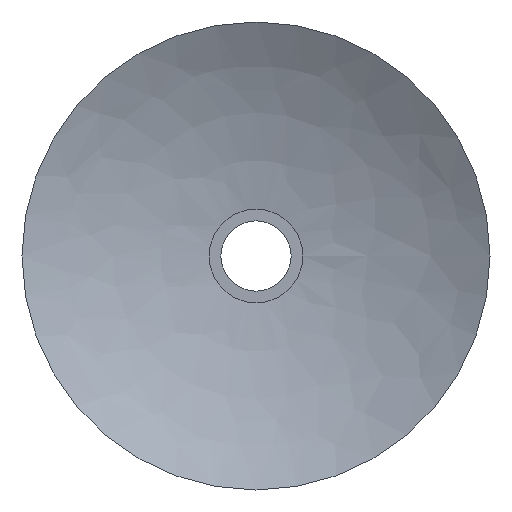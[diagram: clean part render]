
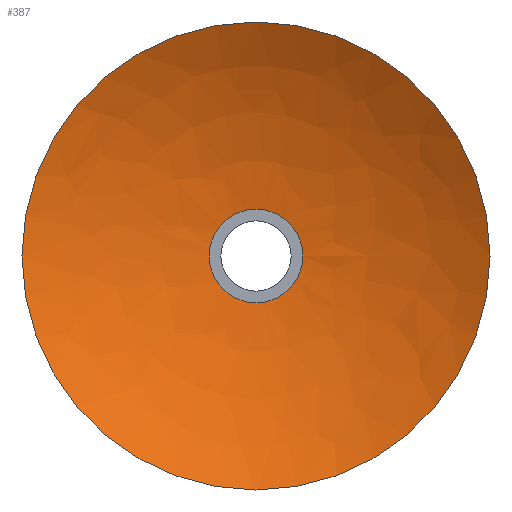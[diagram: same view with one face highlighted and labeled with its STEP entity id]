
A CAD part, front view. The second image highlights one B-rep face of the part: STEP entity #387.
In plain terms, the highlighted free-form (B-spline) face has degree [2, 2] with [9, 3] control points.
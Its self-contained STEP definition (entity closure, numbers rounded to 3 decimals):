
#14 = CARTESIAN_POINT ( 'NONE',  ( 20.781, 5.495, 0. ) ) ;
#16 = CARTESIAN_POINT ( 'NONE',  ( 17.041, 7.579, 6.26 ) ) ;
#27 = DIRECTION ( 'NONE',  ( 1., 0., 0. ) ) ;
#137 = CARTESIAN_POINT ( 'NONE',  ( 0.781, 5.495, 0. ) ) ;
#141 = EDGE_LOOP ( 'NONE', ( #773 ) ) ;
#181 = EDGE_LOOP ( 'NONE', ( #207 ) ) ;
#207 = ORIENTED_EDGE ( 'NONE', *, *, #1219, .F. ) ;
#249 = CARTESIAN_POINT ( 'NONE',  ( 20.781, 5.495, 10. ) ) ;
#258 = FACE_OUTER_BOUND ( 'NONE', #181, .T. ) ;
#260 = CARTESIAN_POINT ( 'NONE',  ( 10.781, 7.579, 6.26 ) ) ;
#263 = DIRECTION ( 'NONE',  ( 0., -1., 0. ) ) ;
#266 = CARTESIAN_POINT ( 'NONE',  ( 10.781, 7.995, -2. ) ) ;
#345 = VERTEX_POINT ( 'NONE', #1112 ) ;
#367 = CARTESIAN_POINT ( 'NONE',  ( 10.781, 7.995, 0. ) ) ;
#369 = CARTESIAN_POINT ( 'NONE',  ( 12.781, 7.995, -2. ) ) ;
#379 = CARTESIAN_POINT ( 'NONE',  ( 12.781, 7.995, 0. ) ) ;
#387 = ADVANCED_FACE ( 'NONE', ( #416, #258 ), #1274, .F. ) ;
#416 = FACE_OUTER_BOUND ( 'NONE', #141, .T. ) ;
#489 = CARTESIAN_POINT ( 'NONE',  ( 8.781, 7.995, 2. ) ) ;
#552 = EDGE_CURVE ( 'NONE', #1092, #1092, #709, .T. ) ;
#568 = CARTESIAN_POINT ( 'NONE',  ( 17.041, 7.579, 0. ) ) ;
#591 = CARTESIAN_POINT ( 'NONE',  ( 8.781, 7.995, -2. ) ) ;
#605 = CARTESIAN_POINT ( 'NONE',  ( 17.041, 7.579, -6.26 ) ) ;
#618 = CARTESIAN_POINT ( 'NONE',  ( 10.781, 5.495, 0. ) ) ;
#685 = CARTESIAN_POINT ( 'NONE',  ( 12.781, 7.995, 2. ) ) ;
#709 = CIRCLE ( 'NONE', #1419, 10. ) ;
#713 = CARTESIAN_POINT ( 'NONE',  ( 20.781, 5.495, 0. ) ) ;
#720 = CARTESIAN_POINT ( 'NONE',  ( 17.041, 7.579, 0. ) ) ;
#724 = CIRCLE ( 'NONE', #870, 2. ) ;
#773 = ORIENTED_EDGE ( 'NONE', *, *, #552, .T. ) ;
#870 = AXIS2_PLACEMENT_3D ( 'NONE', #367, #263, #27 ) ;
#927 = CARTESIAN_POINT ( 'NONE',  ( 10.781, 7.995, 2. ) ) ;
#944 = CARTESIAN_POINT ( 'NONE',  ( 0.781, 5.495, -10. ) ) ;
#954 = CARTESIAN_POINT ( 'NONE',  ( 20.781, 5.495, 0. ) ) ;
#1051 = CARTESIAN_POINT ( 'NONE',  ( 10.781, 7.579, -6.26 ) ) ;
#1063 = CARTESIAN_POINT ( 'NONE',  ( 4.52, 7.579, 0. ) ) ;
#1079 = DIRECTION ( 'NONE',  ( 1., 0., 0. ) ) ;
#1092 = VERTEX_POINT ( 'NONE', #713 ) ;
#1112 = CARTESIAN_POINT ( 'NONE',  ( 12.781, 7.995, 0. ) ) ;
#1168 = CARTESIAN_POINT ( 'NONE',  ( 12.781, 7.995, 0. ) ) ;
#1175 = CARTESIAN_POINT ( 'NONE',  ( 10.781, 5.495, 10. ) ) ;
#1183 = CARTESIAN_POINT ( 'NONE',  ( 4.52, 7.579, 6.26 ) ) ;
#1219 = EDGE_CURVE ( 'NONE', #345, #345, #724, .T. ) ;
#1274 =( BOUNDED_SURFACE ( )  B_SPLINE_SURFACE ( 2, 2, ( 
 ( #1168, #568, #14 ),
 ( #685, #16, #249 ),
 ( #927, #260, #1175 ),
 ( #489, #1183, #1299 ),
 ( #1303, #1063, #137 ),
 ( #591, #1290, #944 ),
 ( #266, #1051, #1406 ),
 ( #369, #605, #1410 ),
 ( #379, #720, #954 ) ),
 .UNSPECIFIED., .T., .F., .F. ) 
 B_SPLINE_SURFACE_WITH_KNOTS ( ( 3, 2, 2, 2, 3 ),
 ( 3, 3 ),
 ( 0., 0.25, 0.5, 0.75, 1. ),
 ( 0., 1. ),
 .UNSPECIFIED. ) 
 GEOMETRIC_REPRESENTATION_ITEM ( )  RATIONAL_B_SPLINE_SURFACE ( (
 ( 1., 0.979, 1.),
 ( 0.707, 0.692, 0.707),
 ( 1., 0.979, 1.),
 ( 0.707, 0.692, 0.707),
 ( 1., 0.979, 1.),
 ( 0.707, 0.692, 0.707),
 ( 1., 0.979, 1.),
 ( 0.707, 0.692, 0.707),
 ( 1., 0.979, 1.) ) ) 
 REPRESENTATION_ITEM ( '' )  SURFACE ( )  );
#1290 = CARTESIAN_POINT ( 'NONE',  ( 4.52, 7.579, -6.26 ) ) ;
#1299 = CARTESIAN_POINT ( 'NONE',  ( 0.781, 5.495, 10. ) ) ;
#1303 = CARTESIAN_POINT ( 'NONE',  ( 8.781, 7.995, 0. ) ) ;
#1320 = DIRECTION ( 'NONE',  ( 0., -1., 0. ) ) ;
#1406 = CARTESIAN_POINT ( 'NONE',  ( 10.781, 5.495, -10. ) ) ;
#1410 = CARTESIAN_POINT ( 'NONE',  ( 20.781, 5.495, -10. ) ) ;
#1419 = AXIS2_PLACEMENT_3D ( 'NONE', #618, #1320, #1079 ) ;
